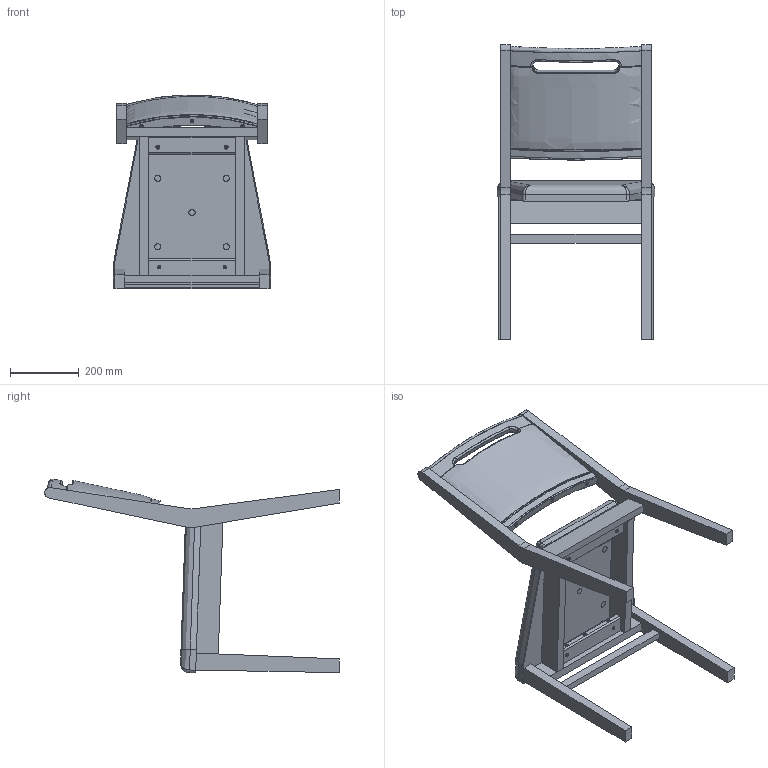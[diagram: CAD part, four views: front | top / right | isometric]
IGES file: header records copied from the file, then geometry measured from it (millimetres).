
Start section: SolidWorks IGES file using analytic representation for surfaces
Global section: file name: C:\Users\Mateus.JMS\Desktop\3Ds _ Lissa\Cadeira Lissa SG800E.IGS; native system: SolidWorks 2020; preprocessor: SolidWorks 2020; author: Mateus; date: 201124.113240; units: millimetre
Bounding box: 461 x 860.13 x 565.85 mm (x, y, z)
Surface area: 2244128.7 mm2 (no closed solid volume)
Topology: 0 solids, 0 shells, 1448 faces, 20759 edges, 20731 vertices
Faces by surface type: bspline 867, revolution 581
